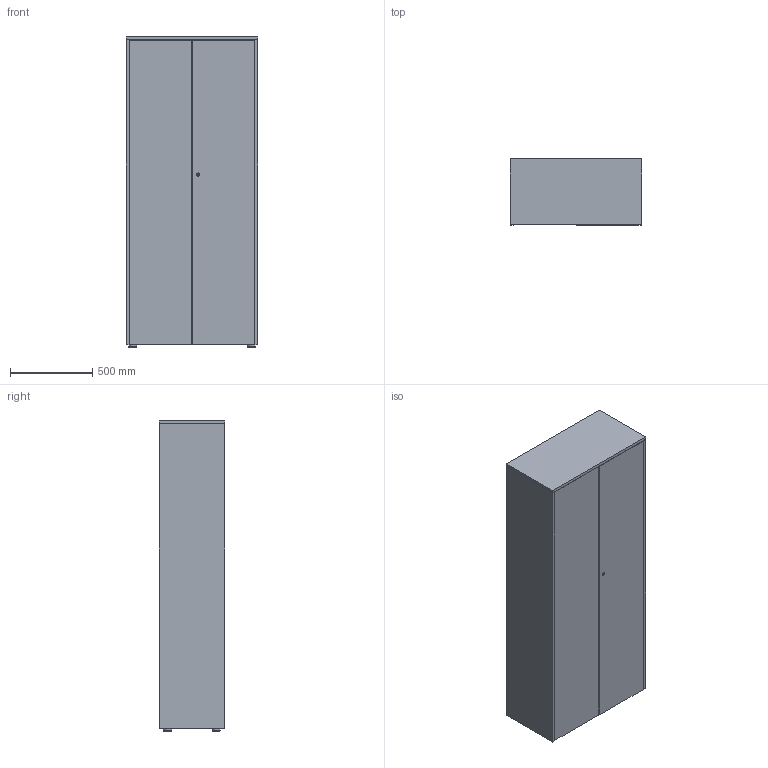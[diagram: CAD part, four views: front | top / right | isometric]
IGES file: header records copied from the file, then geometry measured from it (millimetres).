
Start section: SolidWorks IGES file using analytic representation for surfaces
Global section: file name: C:\Documents and Settings\mbiesiadecki\Moje dokumenty\MEBLE\SYSTEMY BIUROWE\6 VANCOUVER\VANCOUVER - Piktogramy\Vri-pikt-NT\Vr 28bdr-t01\Vr-58bdr-t01.IGS; native system: SolidWorks 2011; preprocessor: SolidWorks 2011; author: mbiesiadecki; date: 110923.160424; units: millimetre
Bounding box: 801 x 400.2 x 1887 mm (x, y, z)
Volume: 86635914.6 mm3; surface area: 10028757.8 mm2
Topology: 4 solids, 4 shells, 98 faces, 230 edges, 146 vertices
Faces by surface type: plane 64, revolution 34
